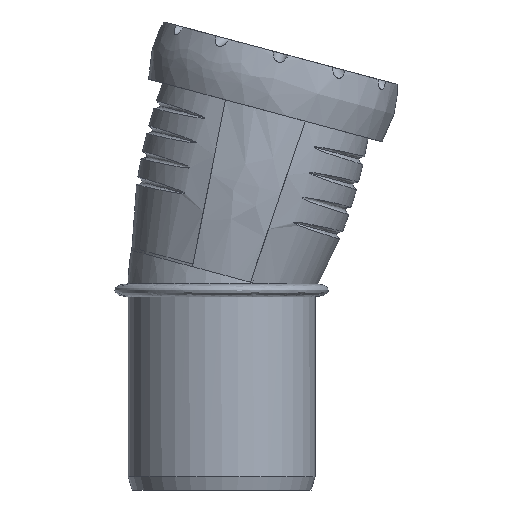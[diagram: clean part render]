
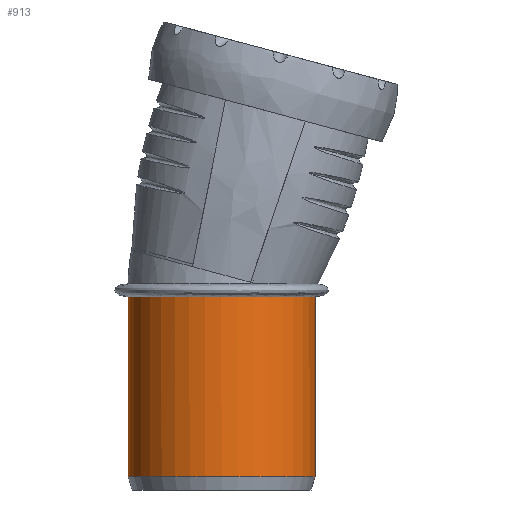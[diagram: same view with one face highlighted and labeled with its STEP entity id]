
A CAD part, front view. The second image highlights one B-rep face of the part: STEP entity #913.
In plain terms, the highlighted cylindrical face has radius 25.075 mm (diameter 50.15 mm), a full revolution.
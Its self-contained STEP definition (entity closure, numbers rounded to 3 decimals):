
#46=CYLINDRICAL_SURFACE('',#1002,25.075);
#94=FACE_BOUND('',#219,.T.);
#145=FACE_OUTER_BOUND('',#218,.T.);
#218=EDGE_LOOP('',(#784,#785,#786,#787));
#219=EDGE_LOOP('',(#788));
#257=CIRCLE('',#988,25.075);
#258=CIRCLE('',#989,25.075);
#263=CIRCLE('',#997,25.075);
#264=CIRCLE('',#998,25.075);
#267=CIRCLE('',#1003,25.075);
#415=VERTEX_POINT('',#3932);
#416=VERTEX_POINT('',#3945);
#417=VERTEX_POINT('',#3947);
#422=VERTEX_POINT('',#4025);
#424=VERTEX_POINT('',#4033);
#534=EDGE_CURVE('',#416,#415,#257,.T.);
#535=EDGE_CURVE('',#417,#416,#258,.T.);
#543=EDGE_CURVE('',#422,#417,#263,.T.);
#544=EDGE_CURVE('',#415,#422,#264,.T.);
#547=EDGE_CURVE('',#424,#424,#267,.T.);
#784=ORIENTED_EDGE('',*,*,#534,.T.);
#785=ORIENTED_EDGE('',*,*,#544,.T.);
#786=ORIENTED_EDGE('',*,*,#543,.T.);
#787=ORIENTED_EDGE('',*,*,#535,.T.);
#788=ORIENTED_EDGE('',*,*,#547,.F.);
#913=ADVANCED_FACE('',(#145,#94),#46,.T.);
#988=AXIS2_PLACEMENT_3D('',#3946,#1142,#1143);
#989=AXIS2_PLACEMENT_3D('',#3948,#1144,#1145);
#997=AXIS2_PLACEMENT_3D('',#4026,#1160,#1161);
#998=AXIS2_PLACEMENT_3D('',#4027,#1162,#1163);
#1002=AXIS2_PLACEMENT_3D('',#4032,#1170,#1171);
#1003=AXIS2_PLACEMENT_3D('',#4034,#1172,#1173);
#1142=DIRECTION('center_axis',(0.,0.,-1.));
#1143=DIRECTION('ref_axis',(1.,0.,0.));
#1144=DIRECTION('center_axis',(0.,0.,-1.));
#1145=DIRECTION('ref_axis',(1.,0.,0.));
#1160=DIRECTION('center_axis',(0.,0.,-1.));
#1161=DIRECTION('ref_axis',(1.,0.,0.));
#1162=DIRECTION('center_axis',(0.,0.,-1.));
#1163=DIRECTION('ref_axis',(1.,0.,0.));
#1170=DIRECTION('center_axis',(0.,0.,-1.));
#1171=DIRECTION('ref_axis',(0.,1.,0.));
#1172=DIRECTION('center_axis',(0.,0.,-1.));
#1173=DIRECTION('ref_axis',(1.,0.,0.));
#3932=CARTESIAN_POINT('',(-8.687,-23.522,51.8));
#3945=CARTESIAN_POINT('',(0.,25.075,51.8));
#3946=CARTESIAN_POINT('Origin',(0.,0.,51.8));
#3947=CARTESIAN_POINT('',(-8.687,23.522,51.8));
#3948=CARTESIAN_POINT('Origin',(0.,0.,51.8));
#4025=CARTESIAN_POINT('',(-25.075,0.,51.8));
#4026=CARTESIAN_POINT('Origin',(0.,0.,51.8));
#4027=CARTESIAN_POINT('Origin',(0.,0.,51.8));
#4032=CARTESIAN_POINT('Origin',(0.,0.,27.65));
#4033=CARTESIAN_POINT('',(0.,25.075,3.5));
#4034=CARTESIAN_POINT('Origin',(0.,0.,3.5));
